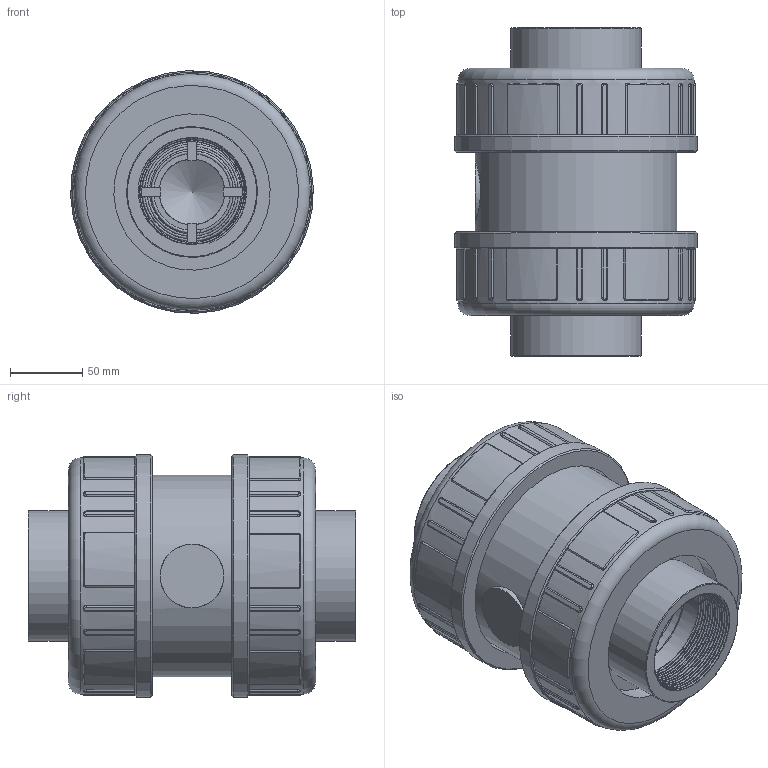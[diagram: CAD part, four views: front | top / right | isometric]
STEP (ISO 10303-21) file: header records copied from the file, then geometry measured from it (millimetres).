
FILE_DESCRIPTION(/* description */ (''),/* implementation_level */ '2;1');
FILE_NAME(/* name */ 'C:\Users\POLYPIPE\Desktop\DATASET INVENTOR\LIBRERIA EFFAST\3D_VALVOLE\3D_VALVOLE NON RITORNO\3D_CV\3D_CERCVE\3D_CERCVE075H.stp',/* time_stamp */ '2018-01-24T17:32:49+01:00',/* author */ ('POLYPIPE'),/* organization */ (''),/* preprocessor_version */ 'ST-DEVELOPER v16.1',/* originating_system */ 'Autodesk Inventor 2016',/* authorisation */ '');
FILE_SCHEMA (('CONFIG_CONTROL_DESIGN'));
Products named in the file (1): 3D_CERCVE075H
Bounding box: 167.92 x 227 x 167.92 mm (x, y, z)
Volume: 2073072.6 mm3; surface area: 406838.5 mm2
Topology: 1 solids, 5 shells, 522 faces, 1319 edges, 832 vertices
Faces by surface type: plane 165, bspline 156, cylinder 150, torus 38, cone 13
Full cylindrical faces by diameter (mm): 70 x2, 72.226 x2, 74 x1, 76.8 x2, 81.4 x1, 81.6 x1, 81.8 x1, 90.5 x2, 91.8 x1, 93.1 x1, 93.6 x1, 95 x1, 108.2 x2, 113.2 x1, 120.6 x1, 121.7 x1, 123.5 x1, 124.5 x1, 133 x2, 139.5 x1, 142.5 x2, 163.5 x2, 168 x2
Entity records: 69834 total; most frequent: CARTESIAN_POINT 57760, ORIENTED_EDGE 2478, DIRECTION 2135, EDGE_CURVE 1237, VERTEX_POINT 814, AXIS2_PLACEMENT_3D 802, EDGE_LOOP 621, LINE 531
